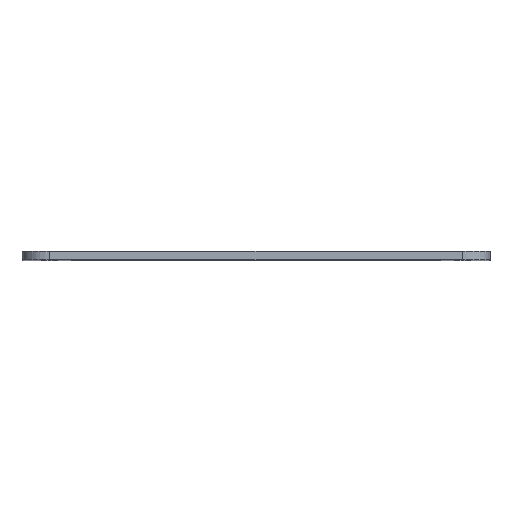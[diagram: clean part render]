
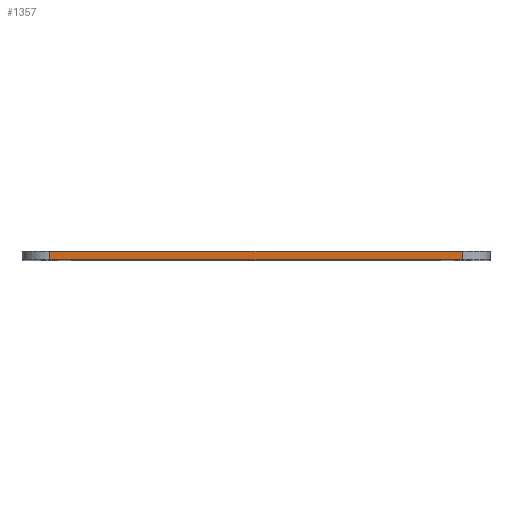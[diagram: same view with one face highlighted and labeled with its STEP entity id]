
A CAD part, top view. The second image highlights one B-rep face of the part: STEP entity #1357.
In plain terms, the highlighted planar face has unit normal (0, 0, 1).
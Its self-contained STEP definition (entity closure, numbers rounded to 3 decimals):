
#197=DIRECTION('',(1.,0.,0.));
#198=VECTOR('',#197,150.);
#199=CARTESIAN_POINT('',(-75.,0.,85.));
#200=LINE('',#199,#198);
#464=DIRECTION('',(1.,0.,0.));
#465=VECTOR('',#464,150.);
#466=CARTESIAN_POINT('',(-75.,3.,85.));
#467=LINE('',#466,#465);
#527=DIRECTION('',(0.,-1.,0.));
#528=VECTOR('',#527,3.);
#529=CARTESIAN_POINT('',(75.,3.,85.));
#530=LINE('',#529,#528);
#531=DIRECTION('',(0.,-1.,0.));
#532=VECTOR('',#531,3.);
#533=CARTESIAN_POINT('',(-75.,3.,85.));
#534=LINE('',#533,#532);
#688=CARTESIAN_POINT('',(75.,0.,85.));
#690=VERTEX_POINT('',#688);
#691=CARTESIAN_POINT('',(75.,3.,85.));
#692=VERTEX_POINT('',#691);
#711=CARTESIAN_POINT('',(-75.,0.,85.));
#713=VERTEX_POINT('',#711);
#717=CARTESIAN_POINT('',(-75.,3.,85.));
#718=VERTEX_POINT('',#717);
#1345=CARTESIAN_POINT('',(-85.,0.,85.));
#1346=DIRECTION('',(0.,0.,1.));
#1347=DIRECTION('',(1.,0.,0.));
#1348=AXIS2_PLACEMENT_3D('',#1345,#1346,#1347);
#1349=PLANE('',#1348);
#1350=ORIENTED_EDGE('',*,*,#1337,.T.);
#1351=ORIENTED_EDGE('',*,*,#738,.F.);
#1353=ORIENTED_EDGE('',*,*,#1352,.F.);
#1354=ORIENTED_EDGE('',*,*,#1160,.T.);
#1355=EDGE_LOOP('',(#1350,#1351,#1353,#1354));
#1356=FACE_OUTER_BOUND('',#1355,.F.);
#738=EDGE_CURVE('',#713,#690,#200,.T.);
#1160=EDGE_CURVE('',#718,#692,#467,.T.);
#1337=EDGE_CURVE('',#692,#690,#530,.T.);
#1352=EDGE_CURVE('',#718,#713,#534,.T.);
#1357=ADVANCED_FACE('',(#1356),#1349,.T.);
